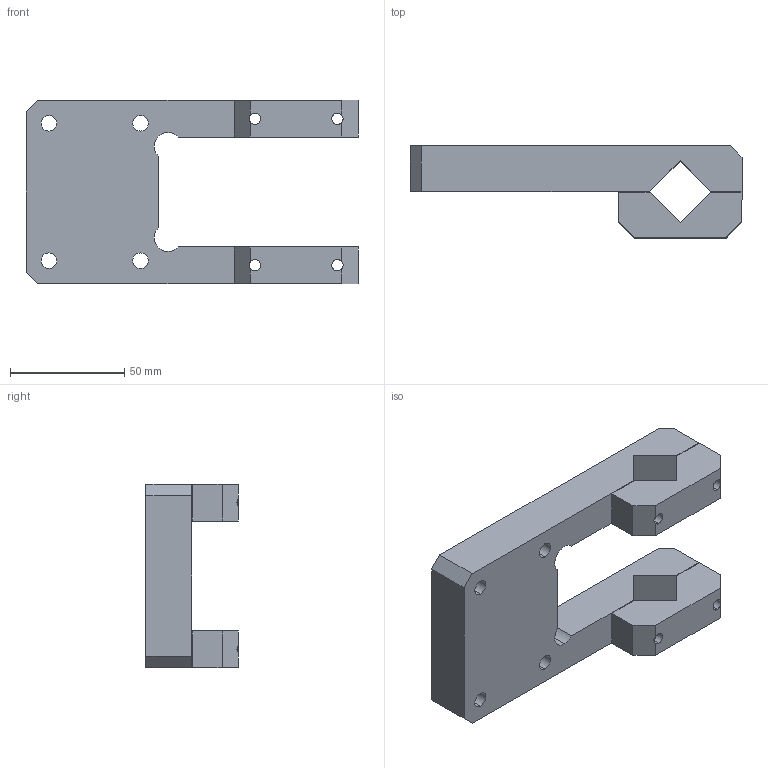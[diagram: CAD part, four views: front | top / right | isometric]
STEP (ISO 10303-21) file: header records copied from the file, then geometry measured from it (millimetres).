
FILE_DESCRIPTION (( 'STEP AP203' ), '1' );
FILE_NAME ('BC-50-ML.STEP', '2017-02-15T11:50:04', ( '' ), ( '' ), 'SwSTEP 2.0', 'SolidWorks 2012', '' );
FILE_SCHEMA (( 'CONFIG_CONTROL_DESIGN' ));
Length unit declared in the file: millimetre
Products named in the file (1): BC-50-ML
Bounding box: 145 x 40.3 x 80 mm (x, y, z)
Volume: 159015.5 mm3; surface area: 39255.2 mm2
Topology: 3 solids, 3 shells, 82 faces, 234 edges, 156 vertices
Faces by surface type: plane 46, cylinder 36
Entity records: 2817 total; most frequent: CARTESIAN_POINT 491, DIRECTION 472, ORIENTED_EDGE 468, EDGE_CURVE 234, AXIS2_PLACEMENT_3D 161, VERTEX_POINT 156, LINE 150, VECTOR 150
